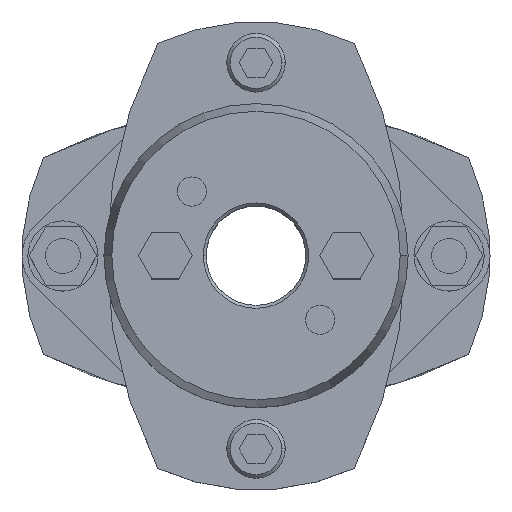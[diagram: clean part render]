
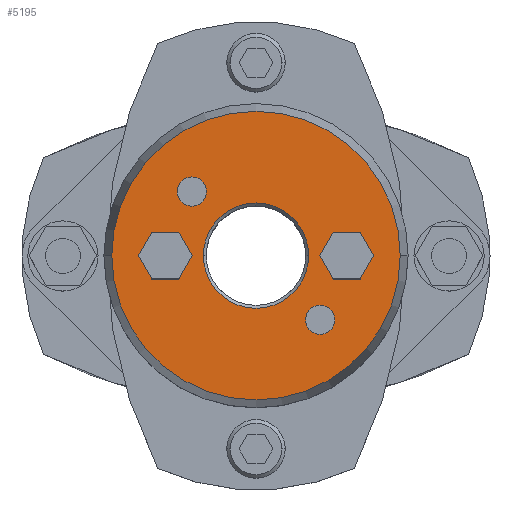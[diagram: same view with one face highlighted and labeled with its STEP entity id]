
A CAD part, top view. The second image highlights one B-rep face of the part: STEP entity #5195.
In plain terms, the highlighted planar face has unit normal (0, 0, 1).
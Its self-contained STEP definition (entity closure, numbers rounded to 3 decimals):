
#857=CARTESIAN_POINT('',(-9.,0.,35.875));
#858=VERTEX_POINT('',#857);
#874=CARTESIAN_POINT('',(9.,0.,35.875));
#875=VERTEX_POINT('',#874);
#882=CARTESIAN_POINT('',(0.,0.,35.875));
#883=DIRECTION('',(0.0,0.0,1.0));
#884=DIRECTION('',(-1.0,0.0,0.0));
#885=AXIS2_PLACEMENT_3D('',#882,#883,#884);
#886=CIRCLE('',#885,9.0);
#887=EDGE_CURVE('',#875,#858,#886,.T.);
#1045=CARTESIAN_POINT('',(24.66,0.,35.875));
#1046=VERTEX_POINT('',#1045);
#1053=CARTESIAN_POINT('',(-24.66,0.,35.875));
#1054=VERTEX_POINT('',#1053);
#1055=CARTESIAN_POINT('',(0.,0.,35.875));
#1056=DIRECTION('',(0.0,0.0,-1.0));
#1057=DIRECTION('',(1.0,0.0,0.0));
#1058=AXIS2_PLACEMENT_3D('',#1055,#1056,#1057);
#1059=CIRCLE('',#1058,24.66);
#1060=EDGE_CURVE('',#1046,#1054,#1059,.T.);
#1155=CARTESIAN_POINT('',(-13.46,10.96,35.875));
#1156=VERTEX_POINT('',#1155);
#1172=CARTESIAN_POINT('',(-8.46,10.96,35.875));
#1173=VERTEX_POINT('',#1172);
#1180=CARTESIAN_POINT('',(-10.96,10.96,35.875));
#1181=DIRECTION('',(0.0,0.0,-1.0));
#1182=DIRECTION('',(-1.0,0.0,0.0));
#1183=AXIS2_PLACEMENT_3D('',#1180,#1181,#1182);
#1184=CIRCLE('',#1183,2.5);
#1185=EDGE_CURVE('',#1156,#1173,#1184,.T.);
#1197=CARTESIAN_POINT('',(8.46,-10.96,35.875));
#1198=VERTEX_POINT('',#1197);
#1214=CARTESIAN_POINT('',(13.46,-10.96,35.875));
#1215=VERTEX_POINT('',#1214);
#1222=CARTESIAN_POINT('',(10.96,-10.96,35.875));
#1223=DIRECTION('',(0.0,0.0,-1.0));
#1224=DIRECTION('',(-1.0,0.0,0.0));
#1225=AXIS2_PLACEMENT_3D('',#1222,#1223,#1224);
#1226=CIRCLE('',#1225,2.5);
#1227=EDGE_CURVE('',#1198,#1215,#1226,.T.);
#4439=CARTESIAN_POINT('',(10.881,0.,35.875));
#4440=VERTEX_POINT('',#4439);
#4447=CARTESIAN_POINT('',(13.191,-4.,35.875));
#4448=VERTEX_POINT('',#4447);
#4449=CARTESIAN_POINT('',(13.191,-4.,35.875));
#4450=DIRECTION('',(-0.5,0.866,0.0));
#4451=VECTOR('',#4450,4.619);
#4452=LINE('',#4449,#4451);
#4453=EDGE_CURVE('',#4448,#4440,#4452,.T.);
#4477=CARTESIAN_POINT('',(13.191,4.,35.875));
#4478=VERTEX_POINT('',#4477);
#4485=CARTESIAN_POINT('',(10.881,0.,35.875));
#4486=DIRECTION('',(0.5,0.866,0.0));
#4487=VECTOR('',#4486,4.619);
#4488=LINE('',#4485,#4487);
#4489=EDGE_CURVE('',#4440,#4478,#4488,.T.);
#4508=CARTESIAN_POINT('',(17.809,4.,35.875));
#4509=VERTEX_POINT('',#4508);
#4516=CARTESIAN_POINT('',(13.191,4.,35.875));
#4517=DIRECTION('',(1.0,0.0,0.0));
#4518=VECTOR('',#4517,4.619);
#4519=LINE('',#4516,#4518);
#4520=EDGE_CURVE('',#4478,#4509,#4519,.T.);
#4539=CARTESIAN_POINT('',(20.119,0.,35.875));
#4540=VERTEX_POINT('',#4539);
#4547=CARTESIAN_POINT('',(17.809,4.,35.875));
#4548=DIRECTION('',(0.5,-0.866,0.0));
#4549=VECTOR('',#4548,4.619);
#4550=LINE('',#4547,#4549);
#4551=EDGE_CURVE('',#4509,#4540,#4550,.T.);
#4570=CARTESIAN_POINT('',(17.809,-4.,35.875));
#4571=VERTEX_POINT('',#4570);
#4578=CARTESIAN_POINT('',(20.119,0.,35.875));
#4579=DIRECTION('',(-0.5,-0.866,0.0));
#4580=VECTOR('',#4579,4.619);
#4581=LINE('',#4578,#4580);
#4582=EDGE_CURVE('',#4540,#4571,#4581,.T.);
#4600=CARTESIAN_POINT('',(17.809,-4.,35.875));
#4601=DIRECTION('',(-1.0,0.0,0.0));
#4602=VECTOR('',#4601,4.619);
#4603=LINE('',#4600,#4602);
#4604=EDGE_CURVE('',#4571,#4448,#4603,.T.);
#4639=CARTESIAN_POINT('',(-20.119,0.,35.875));
#4640=VERTEX_POINT('',#4639);
#4647=CARTESIAN_POINT('',(-17.809,-4.,35.875));
#4648=VERTEX_POINT('',#4647);
#4649=CARTESIAN_POINT('',(-17.809,-4.,35.875));
#4650=DIRECTION('',(-0.5,0.866,0.0));
#4651=VECTOR('',#4650,4.619);
#4652=LINE('',#4649,#4651);
#4653=EDGE_CURVE('',#4648,#4640,#4652,.T.);
#4677=CARTESIAN_POINT('',(-17.809,4.,35.875));
#4678=VERTEX_POINT('',#4677);
#4685=CARTESIAN_POINT('',(-20.119,0.,35.875));
#4686=DIRECTION('',(0.5,0.866,0.0));
#4687=VECTOR('',#4686,4.619);
#4688=LINE('',#4685,#4687);
#4689=EDGE_CURVE('',#4640,#4678,#4688,.T.);
#4708=CARTESIAN_POINT('',(-13.191,4.,35.875));
#4709=VERTEX_POINT('',#4708);
#4716=CARTESIAN_POINT('',(-17.809,4.,35.875));
#4717=DIRECTION('',(1.0,0.0,0.0));
#4718=VECTOR('',#4717,4.619);
#4719=LINE('',#4716,#4718);
#4720=EDGE_CURVE('',#4678,#4709,#4719,.T.);
#4739=CARTESIAN_POINT('',(-10.881,0.,35.875));
#4740=VERTEX_POINT('',#4739);
#4747=CARTESIAN_POINT('',(-13.191,4.,35.875));
#4748=DIRECTION('',(0.5,-0.866,0.0));
#4749=VECTOR('',#4748,4.619);
#4750=LINE('',#4747,#4749);
#4751=EDGE_CURVE('',#4709,#4740,#4750,.T.);
#4770=CARTESIAN_POINT('',(-13.191,-4.,35.875));
#4771=VERTEX_POINT('',#4770);
#4778=CARTESIAN_POINT('',(-10.881,0.,35.875));
#4779=DIRECTION('',(-0.5,-0.866,0.0));
#4780=VECTOR('',#4779,4.619);
#4781=LINE('',#4778,#4780);
#4782=EDGE_CURVE('',#4740,#4771,#4781,.T.);
#4800=CARTESIAN_POINT('',(-13.191,-4.,35.875));
#4801=DIRECTION('',(-1.0,0.0,0.0));
#4802=VECTOR('',#4801,4.619);
#4803=LINE('',#4800,#4802);
#4804=EDGE_CURVE('',#4771,#4648,#4803,.T.);
#4830=CARTESIAN_POINT('',(10.96,-10.96,35.875));
#4831=DIRECTION('',(0.0,0.0,-1.0));
#4832=DIRECTION('',(-1.0,0.0,0.0));
#4833=AXIS2_PLACEMENT_3D('',#4830,#4831,#4832);
#4834=CIRCLE('',#4833,2.5);
#4835=EDGE_CURVE('',#1215,#1198,#4834,.T.);
#4864=CARTESIAN_POINT('',(-10.96,10.96,35.875));
#4865=DIRECTION('',(0.0,0.0,-1.0));
#4866=DIRECTION('',(-1.0,0.0,0.0));
#4867=AXIS2_PLACEMENT_3D('',#4864,#4865,#4866);
#4868=CIRCLE('',#4867,2.5);
#4869=EDGE_CURVE('',#1173,#1156,#4868,.T.);
#5142=CARTESIAN_POINT('',(0.,0.,35.875));
#5143=DIRECTION('',(0.0,0.0,-1.0));
#5144=DIRECTION('',(1.0,0.0,0.0));
#5145=AXIS2_PLACEMENT_3D('',#5142,#5143,#5144);
#5146=CIRCLE('',#5145,24.66);
#5147=EDGE_CURVE('',#1054,#1046,#5146,.T.);
#5152=CARTESIAN_POINT('',(-2.364,0.,35.875));
#5153=DIRECTION('',(0.0,0.0,1.0));
#5154=DIRECTION('',(-1.0,0.0,0.0));
#5155=AXIS2_PLACEMENT_3D('',#5152,#5153,#5154);
#5156=PLANE('',#5155);
#5157=ORIENTED_EDGE('',*,*,#5147,.F.);
#5158=ORIENTED_EDGE('',*,*,#1060,.F.);
#5159=EDGE_LOOP('',(#5157,#5158));
#5160=FACE_OUTER_BOUND('',#5159,.T.);
#5161=ORIENTED_EDGE('',*,*,#4453,.T.);
#5162=ORIENTED_EDGE('',*,*,#4489,.T.);
#5163=ORIENTED_EDGE('',*,*,#4520,.T.);
#5164=ORIENTED_EDGE('',*,*,#4551,.T.);
#5165=ORIENTED_EDGE('',*,*,#4582,.T.);
#5166=ORIENTED_EDGE('',*,*,#4604,.T.);
#5167=EDGE_LOOP('',(#5161,#5162,#5163,#5164,#5165,#5166));
#5168=FACE_BOUND('',#5167,.T.);
#5169=ORIENTED_EDGE('',*,*,#4653,.T.);
#5170=ORIENTED_EDGE('',*,*,#4689,.T.);
#5171=ORIENTED_EDGE('',*,*,#4720,.T.);
#5172=ORIENTED_EDGE('',*,*,#4751,.T.);
#5173=ORIENTED_EDGE('',*,*,#4782,.T.);
#5174=ORIENTED_EDGE('',*,*,#4804,.T.);
#5175=EDGE_LOOP('',(#5169,#5170,#5171,#5172,#5173,#5174));
#5176=FACE_BOUND('',#5175,.T.);
#5177=ORIENTED_EDGE('',*,*,#1227,.T.);
#5178=ORIENTED_EDGE('',*,*,#4835,.T.);
#5179=EDGE_LOOP('',(#5177,#5178));
#5180=FACE_BOUND('',#5179,.T.);
#5181=ORIENTED_EDGE('',*,*,#1185,.T.);
#5182=ORIENTED_EDGE('',*,*,#4869,.T.);
#5183=EDGE_LOOP('',(#5181,#5182));
#5184=FACE_BOUND('',#5183,.T.);
#5185=ORIENTED_EDGE('',*,*,#887,.F.);
#5186=CARTESIAN_POINT('',(0.,0.,35.875));
#5187=DIRECTION('',(0.0,0.0,1.0));
#5188=DIRECTION('',(-1.0,0.0,0.0));
#5189=AXIS2_PLACEMENT_3D('',#5186,#5187,#5188);
#5190=CIRCLE('',#5189,9.0);
#5191=EDGE_CURVE('',#858,#875,#5190,.T.);
#5192=ORIENTED_EDGE('',*,*,#5191,.F.);
#5193=EDGE_LOOP('',(#5185,#5192));
#5194=FACE_BOUND('',#5193,.T.);
#5195=ADVANCED_FACE('',(#5160,#5168,#5176,#5180,#5184,#5194),#5156,.T.);
